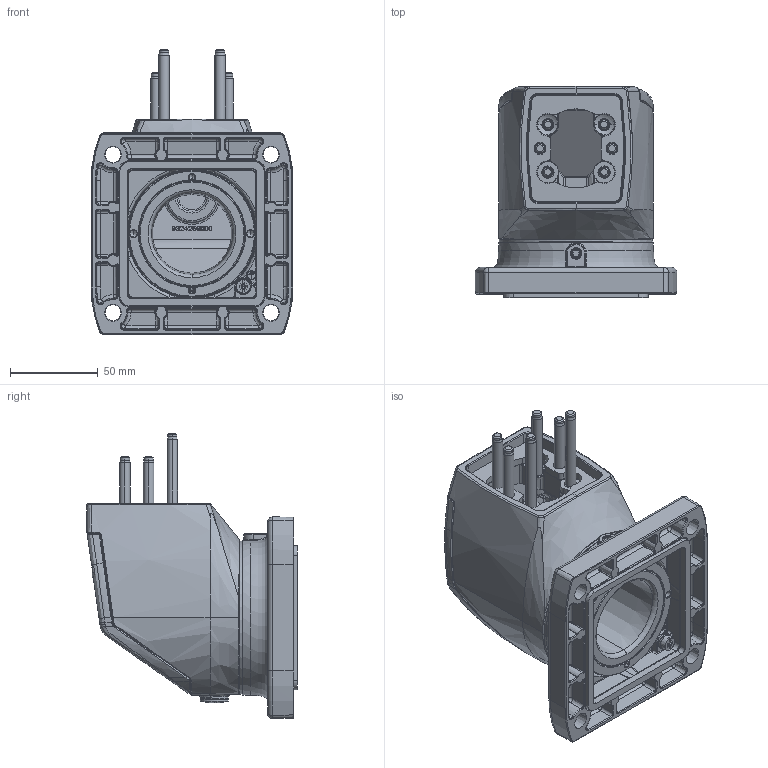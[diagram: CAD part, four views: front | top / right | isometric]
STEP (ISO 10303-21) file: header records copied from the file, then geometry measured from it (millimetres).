
FILE_DESCRIPTION((''),'2;1');
FILE_NAME('1015500022_ASM','2024-03-20T14:36:58',('dirk.bredemeier'),(''),'CREO PARAMETRIC BY PTC INC, 2022124','CREO PARAMETRIC BY PTC INC, 2022124','');
FILE_SCHEMA(('AUTOMOTIVE_DESIGN { 1 0 10303 214 1 1 1 1 }'));
Products named in the file (26): 9324261000_AF1; 9261441000; 9620509000_ASM; 9641000009_ASM; 9371087000; 9231840000_AF11; 9411111000_VG00290; 9324257000_AF0; 9620505000_ASM; 9641000005_ASM; 9371088000; 9502395000; 9263051000; 9432510000; 9324259000_AF0; 9620507000_ASM; 9641000007_DICHTUNG; 9641000007_ASM; 9261654000; 9222005000; 9263097000_GEW_STIFT; 9263097000_ASM; 9231841000; 9231844000; 9261655000; 1015500022_ASM
Assembly tree (33 placements, depth 4):
  1015500022_ASM
    9641000009_ASM
      9620509000_ASM
        9324261000_AF1
        9261441000
    9371087000
    9231840000_AF11
    9411111000_VG00290
    9641000005_ASM
      9620505000_ASM
        9324257000_AF0
        9261441000
    9371088000
    9502395000
    9263051000
    9432510000
    9641000007_ASM
      9620507000_ASM
        9324259000_AF0
        9261441000
      9641000007_DICHTUNG
    9261654000  x2
    9222005000
    9263097000_ASM
      9263097000_GEW_STIFT
    9231841000
    9231844000
    9261655000  x6
Bounding box: 114.89 x 120.06 x 162.45 mm (x, y, z)
Volume: 461083.6 mm3; surface area: 182912.7 mm2
Topology: 26 solids, 26 shells, 3751 faces, 9264 edges, 5632 vertices
Faces by surface type: plane 1277, bspline 1177, cylinder 630, cone 306, torus 304, sphere 52, extrusion 4, revolution 1
Entity records: 202700 total; most frequent: CARTESIAN_POINT 85298, ORIENTED_EDGE 16508, DIRECTION 12786, PRESENTATION_STYLE_ASSIGNMENT 11002, STYLED_ITEM 10941, CURVE_STYLE 8259, EDGE_CURVE 8254, VERTEX_POINT 5001
